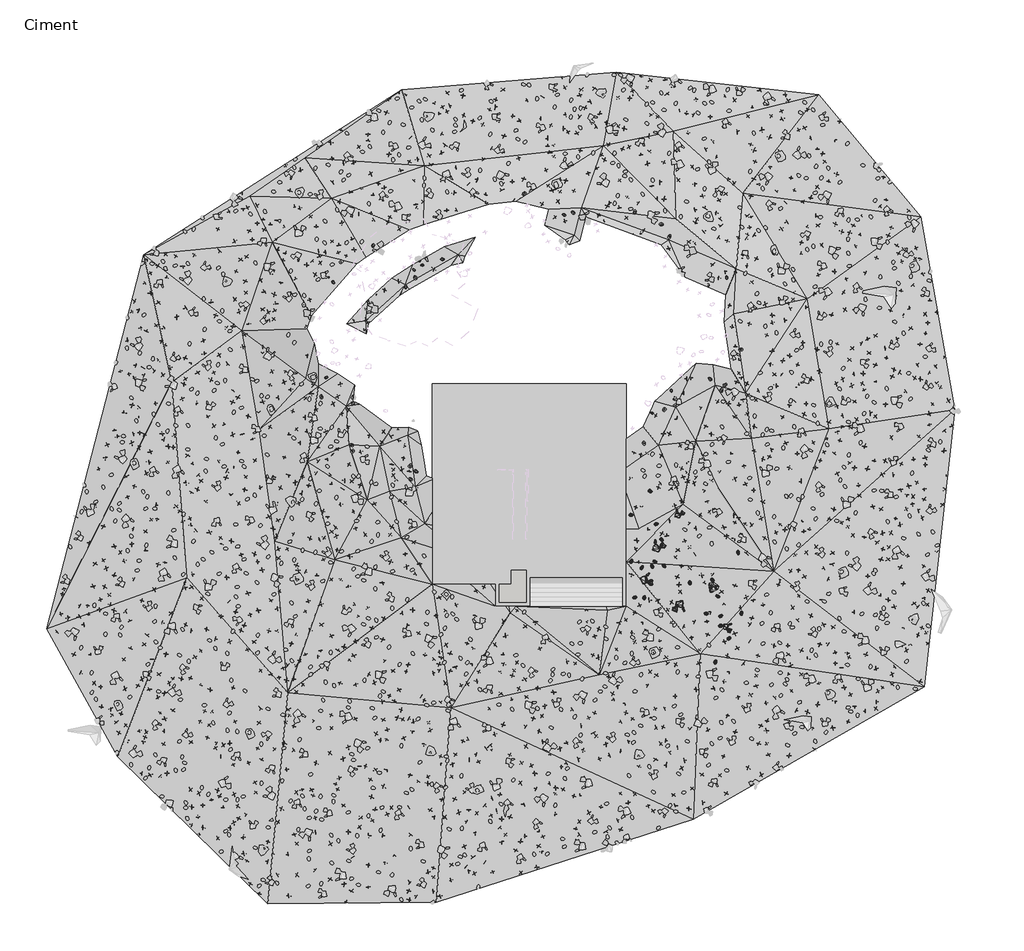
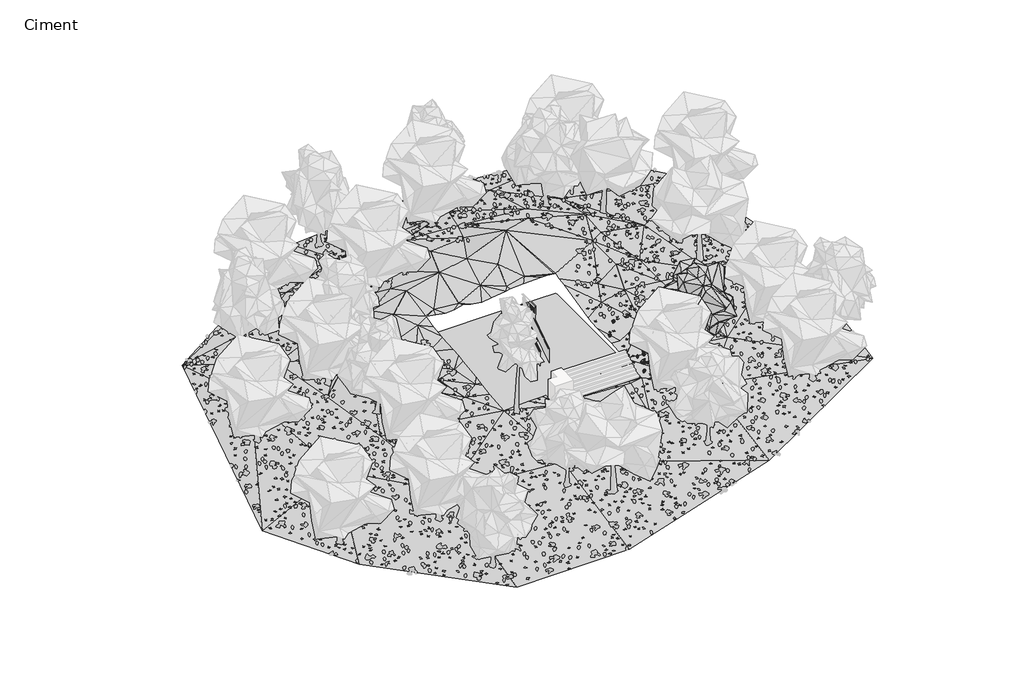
# One storey, part 15 of 30: 71 geographic elements, 2 proxies.
"""IFC4 building model written with IfcOpenShell, lengths in millimetres."""

from ifc_helpers import new_model, si_unit, origin, place, context, project, spatial, triangles, transform, mapped, element, save
from components import enscape_assetdefinition_bush_025_fern_enscape_5718bf32, enscape_assetdefinition_bush_054_plant_09_version_2_enscape_7b546a12, enscape_assetdefinition_bush_062_plant_09_version_3_enscape_ccf8c8eb, enscape_assetdefinition_deciduous_tree_024_elm_enscape_8f9d8ef3, enscape_assetdefinition_stone_013_group_enscape_516da325, enscape_assetdefinition_stone_013_group_enscape_db9b3e91

model = new_model("IFC4")

# Units and contexts
model_context = context("Model", 3, world=origin())
ifc_project = project(units=[si_unit("LENGTHUNIT", "METRE", prefix="MILLI")], contexts=[model_context])

# Site, building, storey
site = spatial("IfcSite", under=ifc_project)
building = spatial("IfcBuilding", under=site)
storey = spatial("IfcBuildingStorey", under=building, Name="Ciment", Elevation=-1500.0)

# Proxies
placement = place(None, origin())
element("IfcBuildingElementProxy", 1, Name="Building Element Proxy", at=placement, inside=storey, context=model_context, shape_type="Tessellation", body=[
    triangles([(-22926.7284851, 10971.8082001, -3000.0000229), (-29221.8302856, -13270.8027557, -3000.0000229), (-24619.4088867, -21555.1633667, -3000.0000229), (-14877.6151428, -31066.8339478, -3000.0000229), (-3985.2175026, -30990.127002, -3000.0000229), (12660.2074677, -25620.6338196, -3000.0000229), (27618.0770142, -17029.4477509, -3000.0000229), (29612.4599304, 919.9969694, -3000.0000229), (27387.9561768, 13423.2422882, -3000.0000229), (20791.1518616, 21324.0658447, -3000.0000229), (7674.2507584, 22781.5001404, -3000.0000229), (-6209.7215469, 21630.8936279, -3000.0000229), (8311.6013901, 2607.3330025, 501.9007599), (8311.6013901, 1968.9519104, 323.8526161), (8311.6013901, 1185.5798138, 219.1070656), (8311.6013901, -2826.1783653, -750.0000057), (8311.6013901, -3383.6088753, -778.2056969), (8311.6013901, -4458.2078178, -840.0412394), (8311.6013901, -6781.7052383, -945.2772577), (8311.6013901, -8930.4676849, -1162.2996214), (8311.6013901, -11802.6667877, -1439.8487411), (7190.0756607, -11802.6667877, -1379.2415394), (6991.1511749, -11802.6667877, -1366.267622), (1179.8526924, -11802.6667877, -1256.9722584), (747.9406837, -11802.6667877, -1251.0842457), (525.2202667, -11802.6667877, -1261.5950867), (-148.3987453, -11802.6667877, -1273.4494503), (-148.3987453, -10856.7338287, -1176.344767), (-148.3987453, -10392.666806, -1118.9257427), (-478.8706249, -10392.666806, -1134.5216658), (-1780.0026878, -10392.666806, -1157.41896), (-4231.0600548, -10392.666806, -1236.7226223), (-4231.0600548, -8032.5236572, -1000.0000076), (-4231.0600548, -6851.0730972, -788.4133587), (-4231.0600548, -6579.918718, -750.0000057), (-4231.0600548, -5736.5725204, -598.7474648), (-4231.0600548, -3602.5452209, -319.3319618), (-4231.0600548, -2932.5308853, -181.1740794), (-4231.0600548, -1855.1111847, -139.9981498), (-4231.0600548, -99.9252688, -19.997528), (-4231.0600548, 23.5891511, 25.3814767), (-4231.0600548, 1405.5185692, 166.4842784), (-4231.0600548, 2557.9522957, 500.0000038), (-4231.0600548, 2607.3330025, 509.9173854), (-4145.1007668, 2607.3330025, 500.0000038), (-3254.6623856, 2607.3330025, 351.9630369), (-2367.4774395, 2607.3330025, 151.6777512), (-1502.3277763, 2607.3330025, 234.4110734), (-685.2160967, 2607.3330025, 455.7351912), (131.8956284, 2607.3330025, 234.4110734), (1160.4778576, 2607.3330025, 67.8558373), (2070.8321743, 2607.3330025, 184.1801278), (3495.5683205, 2607.3330025, 377.1811561), (3913.5343781, 2607.3330025, 500.0000038), (5162.0029404, 2607.3330025, 563.3848703), (6926.7330139, 2607.3330025, 600.0000046), (7486.2500244, 2607.3330025, 622.3480591), (8194.7887527, 2607.3330025, 532.0246479), (-886.1451839, 2902.0292587, 500.0000038), (-3105.3342911, 3204.6459618, 500.0000038), (1988.7134949, 4263.804277, 500.0000038), (3854.849588, 3053.3374649, 500.0000038), (-5475.8320404, 1842.8706528, 500.0000038), (-5828.8843277, -729.3712503, -500.0000038), (-5324.5232529, -4058.154911, -500.0000038), (-6736.7347275, 3608.1347054, 1000.0000076), (-4114.0567314, 6079.5044952, 1000.0000076), (-381.7840364, 7037.79077, 1000.0000076), (2593.9469009, 7542.1518448, 1000.0000076), (4409.6471191, 5575.1434204, 1000.0000076), (5771.4221375, 3456.8264992, 600.0000046), (-7644.5845459, -1435.476915, -750.0000057), (-7039.3511398, -4360.7716141, -750.0000057), (-4719.2901375, -6479.0882446, -750.0000057), (10411.5447235, -1385.0407494, -750.0000057), (11521.1397858, 1086.3289679, -750.0000057), (-8451.5626144, -4915.5691452, -1000.0000076), (-6232.3736526, -7386.9386444, -1000.0000076), (9150.6420364, -6781.7052383, -1000.0000076), (12025.5008606, -5218.1855576, -1000.0000076), (-9662.0294266, -1334.6045837, -500.0000038), (-9813.3382141, 1136.7650608, -500.0000038), (12832.4783478, -1132.8601393, -500.0000038), (14093.3816162, 2498.5402245, -500.0000038), (-8451.5626144, 4566.4209801, 0.0), (13740.3287476, 5827.3239578, 0.0), (-7745.4568771, 5625.5792953, 500.0000038), (-4769.7260124, 7542.1518448, 500.0000038), (526.0660727, 10013.521344, 1000.0000076), (7486.2500244, 9559.5967255, 1000.0000076), (-11629.037851, 2397.6678932, -500.0000038), (-8552.4349457, 6684.7379013, -500.0000038), (-5980.1931152, 9004.7991943, -500.0000038), (-2550.5370506, 10971.8082001, -500.0000038), (4964.4440689, 12232.7103058, -500.0000038), (11067.2140045, 11930.0938934, -500.0000038), (15303.8484283, 7138.6631012, -500.0000038), (16060.3894592, 1994.1790043, -500.0000038), (828.6827757, -12228.8058929, -1300.0000099), (7082.7612808, -12077.4976868, -1400.0000107), (-10569.879245, -8799.1495377, -1500.0000114), (-12335.1435883, -2444.1990646, -1000.0000076), (-12436.0153381, 2952.4651337, -1000.0000076), (14244.6898224, -4108.5910767, -1000.0000076), (16413.4423279, -931.1156948, -1000.0000076), (-11629.037851, 6180.3768265, 0.0), (-8148.9456207, 10114.3942566, 0.0), (-4820.162178, 12232.7103058, 0.0), (173.0132403, 13796.2299866, 0.0), (5418.3692688, 13997.974649, -500.0000038), (15455.1566345, 10063.9578003, -500.0000038), (11521.1397858, 13291.8689117, -500.0000038), (-14453.4608002, -7588.6833069, -2000.0000153), (-15462.1829498, -376.318418, -2000.0000153), (-16571.7768494, 6029.0680389, -2000.0000153), (-14604.7690063, 11778.7856873, -2000.0000153), (-10771.6239075, 14603.2086365, -2000.0000153), (-4769.7260124, 16721.5246857, -2000.0000153), (6830.5807434, 18032.8644104, -2000.0000153), (11369.8315796, 18940.7136475, -2000.0000153), (15858.6447968, 14956.2603424, -2000.0000153), (20044.843927, 8096.9487946, -2000.0000153), (21457.0554016, -325.8823251, -2000.0000153), (17876.0902588, -9555.6917313, -2000.0000153), (13135.0947601, -14901.9194733, -2000.0000153), (6578.400206, -16263.6944916, -2000.0000153), (-3054.8981255, -18382.0117035, -2000.0000153), (-13596.0468567, -17423.7260101, -2000.0000153), (-20152.7419922, -9959.1804749, -2000.0000153), (-21111.0276855, 2700.2845963, -2000.0000153), (-16067.4157745, 14754.5168427, -3000.0000229), (-12486.4517944, 17225.8857605, -3000.0000229)], [[129, 3, 128], [129, 130, 2], [129, 2, 3], [3, 4, 128], [128, 101, 113], [78, 101, 32], [77, 101, 78], [101, 102, 113], [32, 101, 128], [128, 113, 129], [128, 4, 5], [114, 129, 113], [102, 81, 82], [81, 102, 77], [91, 102, 82], [102, 91, 114], [81, 72, 82], [102, 114, 113], [77, 73, 72], [73, 77, 78], [82, 72, 63], [65, 64, 72], [65, 72, 73], [77, 72, 81], [102, 101, 77], [64, 63, 72], [73, 78, 74], [130, 129, 114], [33, 74, 78], [33, 34, 74], [74, 34, 35], [127, 32, 128], [127, 27, 32], [28, 30, 31], [127, 5, 6], [32, 27, 31], [32, 33, 78], [64, 40, 41], [65, 73, 74], [41, 63, 64], [65, 74, 36], [38, 64, 65], [37, 38, 65], [40, 64, 39], [38, 39, 64], [36, 37, 65], [74, 35, 36], [128, 5, 127], [42, 63, 41], [114, 115, 130], [114, 103, 115], [115, 106, 116], [106, 115, 103], [103, 91, 106], [130, 115, 1], [82, 85, 91], [82, 66, 85], [85, 92, 106], [87, 85, 66], [92, 87, 93], [85, 106, 91], [91, 103, 114], [92, 85, 87], [1, 116, 131], [1, 115, 116], [131, 132, 1], [117, 132, 131], [131, 116, 117], [1, 132, 12], [107, 117, 116], [107, 92, 93], [132, 118, 12], [117, 118, 132], [117, 107, 108], [116, 106, 107], [92, 107, 106], [67, 87, 66], [130, 1, 2], [63, 43, 44], [63, 42, 43], [60, 44, 45], [44, 67, 66], [47, 48, 60], [60, 46, 47], [46, 60, 45], [59, 48, 49], [108, 93, 94], [87, 88, 93], [118, 117, 108], [108, 109, 118], [94, 93, 88], [108, 107, 93], [60, 59, 68], [59, 60, 48], [68, 94, 88], [68, 67, 60], [109, 108, 94], [68, 88, 67], [68, 59, 61], [87, 67, 88], [44, 60, 67], [12, 118, 119], [50, 59, 49], [63, 44, 66], [63, 66, 82], [68, 89, 94], [99, 24, 25], [24, 99, 126], [26, 99, 25], [99, 26, 27], [27, 127, 99], [100, 23, 24], [22, 100, 21], [22, 23, 100], [100, 24, 126], [126, 99, 127], [28, 29, 30], [79, 18, 19], [16, 17, 75], [19, 20, 79], [18, 80, 17], [21, 100, 126], [27, 28, 31], [125, 124, 20], [125, 126, 6], [80, 75, 17], [79, 20, 80], [126, 125, 21], [18, 79, 80], [125, 7, 124], [7, 125, 6], [105, 104, 124], [104, 80, 124], [124, 7, 8], [80, 20, 124], [80, 104, 83], [75, 76, 15], [76, 75, 83], [14, 15, 76], [14, 76, 13], [15, 16, 75], [84, 83, 105], [83, 75, 80], [122, 98, 123], [123, 98, 105], [8, 123, 124], [122, 123, 8], [105, 124, 123], [76, 83, 84], [104, 105, 83], [105, 98, 84], [21, 125, 20], [127, 6, 126], [51, 61, 50], [52, 61, 51], [53, 61, 52], [54, 55, 62], [53, 62, 61], [71, 62, 55], [55, 56, 71], [54, 62, 53], [70, 62, 71], [69, 89, 68], [69, 61, 70], [95, 109, 89], [109, 94, 89], [89, 69, 95], [68, 61, 69], [69, 90, 95], [90, 69, 70], [110, 119, 109], [110, 95, 90], [110, 112, 119], [95, 110, 109], [61, 62, 70], [119, 11, 12], [71, 90, 70], [50, 61, 59], [57, 58, 71], [90, 58, 13], [71, 58, 90], [84, 98, 86], [86, 13, 76], [97, 122, 111], [86, 98, 97], [122, 97, 98], [13, 86, 90], [111, 86, 97], [119, 112, 120], [90, 86, 96], [11, 120, 10], [11, 119, 120], [96, 112, 110], [96, 110, 90], [112, 111, 121], [111, 112, 96], [121, 9, 10], [121, 111, 122], [10, 120, 121], [122, 9, 121], [121, 120, 112], [86, 111, 96], [8, 9, 122], [71, 56, 57], [76, 84, 86], [119, 118, 109]], closed=False),
])
element("IfcBuildingElementProxy", 2, Name="Building Element Proxy", at=placement, inside=storey, context=model_context, shape_type="Tessellation", body=[
    triangles([(-4231.0600548, 2607.3330025, -1500.0000114), (3518.939859, 2607.3330025, -1500.0000114), (-4231.0600548, -10392.666806, -1500.0000114), (-148.3987453, -10392.666806, -1500.0000114), (-148.3987453, -11802.6667877, -1500.0000114), (8311.6013901, -11802.6667877, -1500.0000114), (8311.6013901, 2357.3331459, -1500.0000114), (8311.6013901, 2607.3330025, -1500.0000114)], [[3, 5, 4], [1, 4, 2], [4, 1, 3], [5, 6, 4], [8, 2, 7], [6, 7, 2], [6, 2, 4]], closed=False),
])

# Geographic elements
enscape_assetdefinition_bush_025_fern_enscape_shape = enscape_assetdefinition_bush_025_fern_enscape_5718bf32(model_context)
element("IfcGeographicElement", 3, ObjectType="Enscape AssetDefinition - Bush 025 Fern : Enscape AssetDefinition - Bush 025 Fern", at=placement, inside=storey, context=model_context, shape_type="MappedRepresentation", body=[
    mapped(enscape_assetdefinition_bush_025_fern_enscape_shape, transform((14454.2636871, -12442.3961639, -1928.6456108), x_axis=(0.795296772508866, 0.6062202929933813, 0.0), y_axis=(-0.6062202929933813, 0.795296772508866, 0.0), z_axis=(0.0, 0.0, 1.0))),
])
element("IfcGeographicElement", 4, ObjectType="Enscape AssetDefinition - Bush 025 Fern : Enscape AssetDefinition - Bush 025 Fern", at=placement, inside=storey, context=model_context, shape_type="MappedRepresentation", body=[
    mapped(enscape_assetdefinition_bush_025_fern_enscape_shape, transform((15793.1575775, -12261.0492706, -2019.3138123), x_axis=(0.05770504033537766, 0.9983336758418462, 0.0), y_axis=(-0.9983336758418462, 0.05770504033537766, 0.0), z_axis=(0.0, 0.0, 1.0))),
])
element("IfcGeographicElement", 5, ObjectType="Enscape AssetDefinition - Bush 025 Fern : Enscape AssetDefinition - Bush 025 Fern", at=placement, inside=storey, context=model_context, shape_type="MappedRepresentation", body=[
    mapped(enscape_assetdefinition_bush_025_fern_enscape_shape, transform((13903.1925201, -10108.71315, -1711.7013931), x_axis=(-0.7473518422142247, 0.6644284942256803, 0.0), y_axis=(-0.6644284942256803, -0.7473518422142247, 0.0), z_axis=(0.0, 0.0, 1.0))),
])
element("IfcGeographicElement", 6, ObjectType="Enscape AssetDefinition - Bush 025 Fern : Enscape AssetDefinition - Bush 025 Fern", at=placement, inside=storey, context=model_context, shape_type="MappedRepresentation", body=[
    mapped(enscape_assetdefinition_bush_025_fern_enscape_shape, transform((9495.8400726, -11253.9615631, -1450.8215189), x_axis=(-0.09907293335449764, 0.9950801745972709, 0.0), y_axis=(-0.9950801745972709, -0.09907293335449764, 0.0), z_axis=(0.0, 0.0, 1.0))),
])
element("IfcGeographicElement", 7, ObjectType="Enscape AssetDefinition - Bush 025 Fern : Enscape AssetDefinition - Bush 025 Fern", at=placement, inside=storey, context=model_context, shape_type="MappedRepresentation", body=[
    mapped(enscape_assetdefinition_bush_025_fern_enscape_shape, transform((13520.9980011, -12294.7254181, -1840.5435085), x_axis=(0.998221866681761, -0.059607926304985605, 0.0), y_axis=(0.059607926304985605, 0.998221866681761, 0.0), z_axis=(0.0, 0.0, 1.0))),
])
element("IfcGeographicElement", 8, ObjectType="Enscape AssetDefinition - Bush 025 Fern : Enscape AssetDefinition - Bush 025 Fern", at=placement, inside=storey, context=model_context, shape_type="MappedRepresentation", body=[
    mapped(enscape_assetdefinition_bush_025_fern_enscape_shape, transform((14987.9970551, -13894.7734833, -2058.6309433), x_axis=(0.7067002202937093, 0.7075131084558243, 0.0), y_axis=(-0.7075131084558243, 0.7067002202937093, 0.0), z_axis=(0.0, 0.0, 1.0))),
])
element("IfcGeographicElement", 9, ObjectType="Enscape AssetDefinition - Bush 025 Fern : Enscape AssetDefinition - Bush 025 Fern", at=placement, inside=storey, context=model_context, shape_type="MappedRepresentation", body=[
    mapped(enscape_assetdefinition_bush_025_fern_enscape_shape, transform((14428.0519485, -13078.4511566, -1973.1707573), x_axis=(-0.9654509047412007, -0.2605850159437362, 0.0), y_axis=(0.2605850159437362, -0.9654509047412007, 0.0), z_axis=(0.0, 0.0, 1.0))),
])
element("IfcGeographicElement", 10, ObjectType="Enscape AssetDefinition - Bush 025 Fern : Enscape AssetDefinition - Bush 025 Fern", at=placement, inside=storey, context=model_context, shape_type="MappedRepresentation", body=[
    mapped(enscape_assetdefinition_bush_025_fern_enscape_shape, transform((10180.9253693, -8911.6191864, -1308.6351156), x_axis=(-0.9398933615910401, 0.34146810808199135, 0.0), y_axis=(-0.34146810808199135, -0.9398933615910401, 0.0), z_axis=(0.0, 0.0, 1.0))),
])
element("IfcGeographicElement", 11, ObjectType="Enscape AssetDefinition - Bush 025 Fern : Enscape AssetDefinition - Bush 025 Fern", at=placement, inside=storey, context=model_context, shape_type="MappedRepresentation", body=[
    mapped(enscape_assetdefinition_bush_025_fern_enscape_shape, transform((9327.0816803, -9316.3204193, -1274.6934891), x_axis=(-0.23779308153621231, -0.9713158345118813, 0.0), y_axis=(0.9713158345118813, -0.23779308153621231, 0.0), z_axis=(0.0, 0.0, 1.0))),
])
element("IfcGeographicElement", 12, ObjectType="Enscape AssetDefinition - Bush 025 Fern : Enscape AssetDefinition - Bush 025 Fern", at=placement, inside=storey, context=model_context, shape_type="MappedRepresentation", body=[
    mapped(enscape_assetdefinition_bush_025_fern_enscape_shape, transform((12449.2588043, -10287.8742218, -1604.4893265), x_axis=(-0.3943330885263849, 0.9189675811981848, 0.0), y_axis=(-0.9189675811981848, -0.3943330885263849, 0.0), z_axis=(0.0, 0.0, 1.0))),
])
element("IfcGeographicElement", 13, ObjectType="Enscape AssetDefinition - Bush 025 Fern : Enscape AssetDefinition - Bush 025 Fern", at=placement, inside=storey, context=model_context, shape_type="MappedRepresentation", body=[
    mapped(enscape_assetdefinition_bush_025_fern_enscape_shape, transform((8654.706955, -8895.2484131, -1185.2433681), x_axis=(0.4189918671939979, 0.90798998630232, 0.0), y_axis=(-0.90798998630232, 0.4189918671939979, 0.0), z_axis=(0.0, 0.0, 1.0))),
])
element("IfcGeographicElement", 14, ObjectType="Enscape AssetDefinition - Bush 025 Fern : Enscape AssetDefinition - Bush 025 Fern", at=placement, inside=storey, context=model_context, shape_type="MappedRepresentation", body=[
    mapped(enscape_assetdefinition_bush_025_fern_enscape_shape, transform((10000.1544952, -9210.3996277, -1322.6377964), x_axis=(-0.5384157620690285, 0.8426793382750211, 0.0), y_axis=(-0.8426793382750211, -0.5384157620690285, 0.0), z_axis=(0.0, 0.0, 1.0))),
])
element("IfcGeographicElement", 15, ObjectType="Enscape AssetDefinition - Bush 025 Fern : Enscape AssetDefinition - Bush 025 Fern", at=placement, inside=storey, context=model_context, shape_type="MappedRepresentation", body=[
    mapped(enscape_assetdefinition_bush_025_fern_enscape_shape, transform((8867.3686981, -11239.2215729, -1415.435195), x_axis=(-0.9352339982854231, -0.354030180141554, 0.0), y_axis=(0.354030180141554, -0.9352339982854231, 0.0), z_axis=(0.0, 0.0, 1.0))),
])
element("IfcGeographicElement", 16, ObjectType="Enscape AssetDefinition - Bush 025 Fern : Enscape AssetDefinition - Bush 025 Fern", at=placement, inside=storey, context=model_context, shape_type="MappedRepresentation", body=[
    mapped(enscape_assetdefinition_bush_025_fern_enscape_shape, transform((10252.6836395, -6487.1273041, -1029.2271376), x_axis=(-0.9276692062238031, -0.37340305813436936, 0.0), y_axis=(0.37340305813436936, -0.9276692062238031, 0.0), z_axis=(0.0, 0.0, 1.0))),
])
element("IfcGeographicElement", 17, ObjectType="Enscape AssetDefinition - Bush 025 Fern : Enscape AssetDefinition - Bush 025 Fern", at=placement, inside=storey, context=model_context, shape_type="MappedRepresentation", body=[
    mapped(enscape_assetdefinition_bush_025_fern_enscape_shape, transform((10776.7353058, -9203.2585144, -1386.4029646), x_axis=(0.7588563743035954, -0.6512580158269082, 0.0), y_axis=(0.6512580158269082, 0.7588563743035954, 0.0), z_axis=(0.0, 0.0, 1.0))),
])
element("IfcGeographicElement", 18, ObjectType="Enscape AssetDefinition - Bush 025 Fern : Enscape AssetDefinition - Bush 025 Fern", at=placement, inside=storey, context=model_context, shape_type="MappedRepresentation", body=[
    mapped(enscape_assetdefinition_bush_025_fern_enscape_shape, transform((14256.6356659, -11167.0398712, -1818.656683), x_axis=(0.9704094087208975, -0.2414654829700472, 0.0), y_axis=(0.2414654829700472, 0.9704094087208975, 0.0), z_axis=(0.0, 0.0, 1.0))),
])
element("IfcGeographicElement", 19, ObjectType="Enscape AssetDefinition - Bush 025 Fern : Enscape AssetDefinition - Bush 025 Fern", at=placement, inside=storey, context=model_context, shape_type="MappedRepresentation", body=[
    mapped(enscape_assetdefinition_bush_025_fern_enscape_shape, transform((9880.440712, -4360.3572845, -883.5076094), x_axis=(0.927915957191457, -0.37278945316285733, 0.0), y_axis=(0.37278945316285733, 0.927915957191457, 0.0), z_axis=(0.0, 0.0, 1.0))),
])
element("IfcGeographicElement", 20, ObjectType="Enscape AssetDefinition - Bush 025 Fern : Enscape AssetDefinition - Bush 025 Fern", at=placement, inside=storey, context=model_context, shape_type="MappedRepresentation", body=[
    mapped(enscape_assetdefinition_bush_025_fern_enscape_shape, transform((15564.7754669, -8341.3066864, -1666.4814949), x_axis=(0.3182640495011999, -0.9480021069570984, 0.0), y_axis=(0.9480021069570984, 0.3182640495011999, 0.0), z_axis=(0.0, 0.0, 1.0))),
])
element("IfcGeographicElement", 21, ObjectType="Enscape AssetDefinition - Bush 025 Fern : Enscape AssetDefinition - Bush 025 Fern", at=placement, inside=storey, context=model_context, shape_type="MappedRepresentation", body=[
    mapped(enscape_assetdefinition_bush_025_fern_enscape_shape, transform((8648.5691071, -5899.5895386, -927.3016453), x_axis=(0.9959968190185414, 0.08938868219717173, 0.0), y_axis=(-0.08938868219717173, 0.9959968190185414, 0.0), z_axis=(0.0, 0.0, 1.0))),
])
element("IfcGeographicElement", 22, ObjectType="Enscape AssetDefinition - Bush 025 Fern : Enscape AssetDefinition - Bush 025 Fern", at=placement, inside=storey, context=model_context, shape_type="MappedRepresentation", body=[
    mapped(enscape_assetdefinition_bush_025_fern_enscape_shape, transform((10619.2569733, -7497.2949028, -1169.1359282), x_axis=(0.9042128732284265, -0.4270820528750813, 0.0), y_axis=(0.4270820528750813, 0.9042128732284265, 0.0), z_axis=(0.0, 0.0, 1.0))),
])
element("IfcGeographicElement", 23, ObjectType="Enscape AssetDefinition - Bush 025 Fern : Enscape AssetDefinition - Bush 025 Fern", at=placement, inside=storey, context=model_context, shape_type="MappedRepresentation", body=[
    mapped(enscape_assetdefinition_bush_025_fern_enscape_shape, transform((14108.1895828, -15413.7058258, -2102.4980545), x_axis=(0.26750762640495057, 0.9635557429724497, 0.0), y_axis=(-0.9635557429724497, 0.26750762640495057, 0.0), z_axis=(0.0, 0.0, 1.0))),
])
enscape_assetdefinition_bush_054_plant_09_version_2_enscape_shape = enscape_assetdefinition_bush_054_plant_09_version_2_enscape_7b546a12(model_context)
element("IfcGeographicElement", 24, ObjectType="Enscape AssetDefinition - Bush 054 Plant 09, Version 2 : Enscape AssetDefinition - Bush 054 Plant 09, Version 2", at=placement, inside=storey, context=model_context, shape_type="MappedRepresentation", body=[
    mapped(enscape_assetdefinition_bush_054_plant_09_version_2_enscape_shape, transform((9718.1873322, -6854.8412323, -1036.6132259), x_axis=(0.10800796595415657, -0.994150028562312, 0.0), y_axis=(0.994150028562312, 0.10800796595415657, 0.0), z_axis=(0.0, 0.0, 1.0))),
])
element("IfcGeographicElement", 25, ObjectType="Enscape AssetDefinition - Bush 054 Plant 09, Version 2 : Enscape AssetDefinition - Bush 054 Plant 09, Version 2", at=placement, inside=storey, context=model_context, shape_type="MappedRepresentation", body=[
    mapped(enscape_assetdefinition_bush_054_plant_09_version_2_enscape_shape, transform((13539.97612, -12784.9216461, -1878.1024218), x_axis=(0.21066558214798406, -0.9775581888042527, 0.0), y_axis=(0.9775581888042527, 0.21066558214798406, 0.0), z_axis=(0.0, 0.0, 1.0))),
])
element("IfcGeographicElement", 26, ObjectType="Enscape AssetDefinition - Bush 054 Plant 09, Version 2 : Enscape AssetDefinition - Bush 054 Plant 09, Version 2", at=placement, inside=storey, context=model_context, shape_type="MappedRepresentation", body=[
    mapped(enscape_assetdefinition_bush_054_plant_09_version_2_enscape_shape, transform((12740.6826019, -12834.4707489, -1815.5699968), x_axis=(0.9569949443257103, -0.29010459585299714, 0.0), y_axis=(0.29010459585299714, 0.9569949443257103, 0.0), z_axis=(0.0, 0.0, 1.0))),
])
element("IfcGeographicElement", 27, ObjectType="Enscape AssetDefinition - Bush 054 Plant 09, Version 2 : Enscape AssetDefinition - Bush 054 Plant 09, Version 2", at=placement, inside=storey, context=model_context, shape_type="MappedRepresentation", body=[
    mapped(enscape_assetdefinition_bush_054_plant_09_version_2_enscape_shape, transform((12772.9511261, -8460.4072571, -1459.1423273), x_axis=(0.7951299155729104, 0.6064391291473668, 0.0), y_axis=(-0.6064391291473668, 0.7951299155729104, 0.0), z_axis=(0.0, 0.0, 1.0))),
])
element("IfcGeographicElement", 28, ObjectType="Enscape AssetDefinition - Bush 054 Plant 09, Version 2 : Enscape AssetDefinition - Bush 054 Plant 09, Version 2", at=placement, inside=storey, context=model_context, shape_type="MappedRepresentation", body=[
    mapped(enscape_assetdefinition_bush_054_plant_09_version_2_enscape_shape, transform((10410.7685089, -4133.310318, -889.0340328), x_axis=(0.27180957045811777, 0.9623510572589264, 0.0), y_axis=(-0.9623510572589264, 0.27180957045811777, 0.0), z_axis=(0.0, 0.0, 1.0))),
])
element("IfcGeographicElement", 29, ObjectType="Enscape AssetDefinition - Bush 054 Plant 09, Version 2 : Enscape AssetDefinition - Bush 054 Plant 09, Version 2", at=placement, inside=storey, context=model_context, shape_type="MappedRepresentation", body=[
    mapped(enscape_assetdefinition_bush_054_plant_09_version_2_enscape_shape, transform((12027.4677277, -13125.8563995, -1777.9176235), x_axis=(-0.3302677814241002, -0.9438872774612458, 0.0), y_axis=(0.9438872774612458, -0.3302677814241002, 0.0), z_axis=(0.0, 0.0, 1.0))),
])
element("IfcGeographicElement", 30, ObjectType="Enscape AssetDefinition - Bush 054 Plant 09, Version 2 : Enscape AssetDefinition - Bush 054 Plant 09, Version 2", at=placement, inside=storey, context=model_context, shape_type="MappedRepresentation", body=[
    mapped(enscape_assetdefinition_bush_054_plant_09_version_2_enscape_shape, transform((9303.030014, -5405.4570198, -925.5757332), x_axis=(-0.7116567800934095, -0.7025273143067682, 0.0), y_axis=(0.7025273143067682, -0.7116567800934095, 0.0), z_axis=(0.0, 0.0, 1.0))),
])
element("IfcGeographicElement", 31, ObjectType="Enscape AssetDefinition - Bush 054 Plant 09, Version 2 : Enscape AssetDefinition - Bush 054 Plant 09, Version 2", at=placement, inside=storey, context=model_context, shape_type="MappedRepresentation", body=[
    mapped(enscape_assetdefinition_bush_054_plant_09_version_2_enscape_shape, transform((11456.284523, -5307.454586, -987.3232841), x_axis=(0.9510488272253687, 0.3090406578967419, 0.0), y_axis=(-0.3090406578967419, 0.9510488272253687, 0.0), z_axis=(0.0, 0.0, 1.0))),
])
element("IfcGeographicElement", 32, ObjectType="Enscape AssetDefinition - Bush 054 Plant 09, Version 2 : Enscape AssetDefinition - Bush 054 Plant 09, Version 2", at=placement, inside=storey, context=model_context, shape_type="MappedRepresentation", body=[
    mapped(enscape_assetdefinition_bush_054_plant_09_version_2_enscape_shape, transform((8934.2823029, -5407.6004028, -914.1588211), x_axis=(0.9585560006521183, -0.28490418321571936, 0.0), y_axis=(0.28490418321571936, 0.9585560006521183, 0.0), z_axis=(0.0, 0.0, 1.0))),
])
element("IfcGeographicElement", 33, ObjectType="Enscape AssetDefinition - Bush 054 Plant 09, Version 2 : Enscape AssetDefinition - Bush 054 Plant 09, Version 2", at=placement, inside=storey, context=model_context, shape_type="MappedRepresentation", body=[
    mapped(enscape_assetdefinition_bush_054_plant_09_version_2_enscape_shape, transform((8928.6603928, -8086.3609314, -1113.5348082), x_axis=(-0.8785893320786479, -0.4775780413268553, 0.0), y_axis=(0.4775780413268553, -0.8785893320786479, 0.0), z_axis=(0.0, 0.0, 1.0))),
])
element("IfcGeographicElement", 34, ObjectType="Enscape AssetDefinition - Bush 054 Plant 09, Version 2 : Enscape AssetDefinition - Bush 054 Plant 09, Version 2", at=placement, inside=storey, context=model_context, shape_type="MappedRepresentation", body=[
    mapped(enscape_assetdefinition_bush_054_plant_09_version_2_enscape_shape, transform((13917.432785, -9761.8045807, -1687.4125004), x_axis=(-0.5794396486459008, -0.8150151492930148, 0.0), y_axis=(0.8150151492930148, -0.5794396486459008, 0.0), z_axis=(0.0, 0.0, 1.0))),
])
element("IfcGeographicElement", 35, ObjectType="Enscape AssetDefinition - Bush 054 Plant 09, Version 2 : Enscape AssetDefinition - Bush 054 Plant 09, Version 2", at=placement, inside=storey, context=model_context, shape_type="MappedRepresentation", body=[
    mapped(enscape_assetdefinition_bush_054_plant_09_version_2_enscape_shape, transform((9178.8806915, -11748.4292984, -1481.4753532), x_axis=(0.4131958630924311, -0.9106421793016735, 0.0), y_axis=(0.9106421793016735, 0.4131958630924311, 0.0), z_axis=(0.0, 0.0, 1.0))),
])
element("IfcGeographicElement", 36, ObjectType="Enscape AssetDefinition - Bush 054 Plant 09, Version 2 : Enscape AssetDefinition - Bush 054 Plant 09, Version 2", at=placement, inside=storey, context=model_context, shape_type="MappedRepresentation", body=[
    mapped(enscape_assetdefinition_bush_054_plant_09_version_2_enscape_shape, transform((10945.4936981, -7251.7800331, -1164.8129225), x_axis=(0.16561109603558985, -0.9861911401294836, 0.0), y_axis=(0.9861911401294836, 0.16561109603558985, 0.0), z_axis=(0.0, 0.0, 1.0))),
])
element("IfcGeographicElement", 37, ObjectType="Enscape AssetDefinition - Bush 054 Plant 09, Version 2 : Enscape AssetDefinition - Bush 054 Plant 09, Version 2", at=placement, inside=storey, context=model_context, shape_type="MappedRepresentation", body=[
    mapped(enscape_assetdefinition_bush_054_plant_09_version_2_enscape_shape, transform((12565.618515, -13851.4738083, -1875.73874), x_axis=(-0.19062685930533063, 0.9816625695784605, 0.0), y_axis=(-0.9816625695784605, -0.19062685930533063, 0.0), z_axis=(0.0, 0.0, 1.0))),
])
element("IfcGeographicElement", 38, ObjectType="Enscape AssetDefinition - Bush 054 Plant 09, Version 2 : Enscape AssetDefinition - Bush 054 Plant 09, Version 2", at=placement, inside=storey, context=model_context, shape_type="MappedRepresentation", body=[
    mapped(enscape_assetdefinition_bush_054_plant_09_version_2_enscape_shape, transform((14662.8818512, -11640.4094696, -1887.0396614), x_axis=(0.7142218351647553, 0.699919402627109, 0.0), y_axis=(-0.699919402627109, 0.7142218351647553, 0.0), z_axis=(0.0, 0.0, 1.0))),
])
element("IfcGeographicElement", 39, ObjectType="Enscape AssetDefinition - Bush 054 Plant 09, Version 2 : Enscape AssetDefinition - Bush 054 Plant 09, Version 2", at=placement, inside=storey, context=model_context, shape_type="MappedRepresentation", body=[
    mapped(enscape_assetdefinition_bush_054_plant_09_version_2_enscape_shape, transform((15747.5719452, -11880.9804916, -1994.49718), x_axis=(-0.9562816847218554, -0.2924471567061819, 0.0), y_axis=(0.2924471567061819, -0.9562816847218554, 0.0), z_axis=(0.0, 0.0, 1.0))),
])
element("IfcGeographicElement", 40, ObjectType="Enscape AssetDefinition - Bush 054 Plant 09, Version 2 : Enscape AssetDefinition - Bush 054 Plant 09, Version 2", at=placement, inside=storey, context=model_context, shape_type="MappedRepresentation", body=[
    mapped(enscape_assetdefinition_bush_054_plant_09_version_2_enscape_shape, transform((11516.5424347, -8636.9380951, -1380.9885979), x_axis=(-0.7716307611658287, 0.6360707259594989, 0.0), y_axis=(-0.6360707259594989, -0.7716307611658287, 0.0), z_axis=(0.0, 0.0, 1.0))),
])
element("IfcGeographicElement", 41, ObjectType="Enscape AssetDefinition - Bush 054 Plant 09, Version 2 : Enscape AssetDefinition - Bush 054 Plant 09, Version 2", at=placement, inside=storey, context=model_context, shape_type="MappedRepresentation", body=[
    mapped(enscape_assetdefinition_bush_054_plant_09_version_2_enscape_shape, transform((13356.4167023, -10300.1842499, -1680.4931164), x_axis=(-0.25902463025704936, -0.9658707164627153, 0.0), y_axis=(0.9658707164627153, -0.25902463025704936, 0.0), z_axis=(0.0, 0.0, 1.0))),
])
element("IfcGeographicElement", 42, ObjectType="Enscape AssetDefinition - Bush 054 Plant 09, Version 2 : Enscape AssetDefinition - Bush 054 Plant 09, Version 2", at=placement, inside=storey, context=model_context, shape_type="MappedRepresentation", body=[
    mapped(enscape_assetdefinition_bush_054_plant_09_version_2_enscape_shape, transform((11911.8175507, -9212.5148773, -1481.0509682), x_axis=(0.11893772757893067, 0.9929017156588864, 0.0), y_axis=(-0.9929017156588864, 0.11893772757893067, 0.0), z_axis=(0.0, 0.0, 1.0))),
])
element("IfcGeographicElement", 43, ObjectType="Enscape AssetDefinition - Bush 054 Plant 09, Version 2 : Enscape AssetDefinition - Bush 054 Plant 09, Version 2", at=placement, inside=storey, context=model_context, shape_type="MappedRepresentation", body=[
    mapped(enscape_assetdefinition_bush_054_plant_09_version_2_enscape_shape, transform((13808.6719513, -12205.3661346, -1857.7988148), x_axis=(0.11549526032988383, 0.9933080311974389, 0.0), y_axis=(-0.9933080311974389, 0.11549526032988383, 0.0), z_axis=(0.0, 0.0, 1.0))),
])
element("IfcGeographicElement", 44, ObjectType="Enscape AssetDefinition - Bush 054 Plant 09, Version 2 : Enscape AssetDefinition - Bush 054 Plant 09, Version 2", at=placement, inside=storey, context=model_context, shape_type="MappedRepresentation", body=[
    mapped(enscape_assetdefinition_bush_054_plant_09_version_2_enscape_shape, transform((11111.7153168, -6283.8096619, -1058.7003231), x_axis=(0.9791261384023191, 0.20325354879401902, 0.0), y_axis=(-0.20325354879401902, 0.9791261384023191, 0.0), z_axis=(0.0, 0.0, 1.0))),
])
element("IfcGeographicElement", 45, ObjectType="Enscape AssetDefinition - Bush 054 Plant 09, Version 2 : Enscape AssetDefinition - Bush 054 Plant 09, Version 2", at=placement, inside=storey, context=model_context, shape_type="MappedRepresentation", body=[
    mapped(enscape_assetdefinition_bush_054_plant_09_version_2_enscape_shape, transform((9123.0106354, -8981.3842773, -1233.1045866), x_axis=(0.9989907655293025, -0.04491603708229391, 0.0), y_axis=(0.04491603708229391, 0.9989907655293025, 0.0), z_axis=(0.0, 0.0, 1.0))),
])
enscape_assetdefinition_bush_062_plant_09_version_3_enscape_shape = enscape_assetdefinition_bush_062_plant_09_version_3_enscape_ccf8c8eb(model_context)
element("IfcGeographicElement", 46, ObjectType="Enscape AssetDefinition - Bush 062 Plant 09, Version 3 : Enscape AssetDefinition - Bush 062 Plant 09, Version 3", at=placement, inside=storey, context=model_context, shape_type="MappedRepresentation", body=[
    mapped(enscape_assetdefinition_bush_062_plant_09_version_3_enscape_shape, transform((15360.7349396, -13573.6188889, -2064.0034676), x_axis=(0.5735546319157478, -0.819167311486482, 0.0), y_axis=(0.819167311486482, 0.5735546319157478, 0.0), z_axis=(0.0, 0.0, 1.0))),
])
element("IfcGeographicElement", 47, ObjectType="Enscape AssetDefinition - Bush 062 Plant 09, Version 3 : Enscape AssetDefinition - Bush 062 Plant 09, Version 3", at=placement, inside=storey, context=model_context, shape_type="MappedRepresentation", body=[
    mapped(enscape_assetdefinition_bush_062_plant_09_version_3_enscape_shape, transform((9817.3971176, -11401.0982513, -1482.416749), x_axis=(0.25047893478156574, -0.9681220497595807, 0.0), y_axis=(0.9681220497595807, 0.25047893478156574, 0.0), z_axis=(0.0, 0.0, 1.0))),
])
element("IfcGeographicElement", 48, ObjectType="Enscape AssetDefinition - Bush 062 Plant 09, Version 3 : Enscape AssetDefinition - Bush 062 Plant 09, Version 3", at=placement, inside=storey, context=model_context, shape_type="MappedRepresentation", body=[
    mapped(enscape_assetdefinition_bush_062_plant_09_version_3_enscape_shape, transform((13198.1267929, -9819.360733, -1632.0893764), x_axis=(-0.3086139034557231, 0.9511873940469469, 0.0), y_axis=(-0.9511873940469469, -0.3086139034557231, 0.0), z_axis=(0.0, 0.0, 1.0))),
])
element("IfcGeographicElement", 49, ObjectType="Enscape AssetDefinition - Bush 062 Plant 09, Version 3 : Enscape AssetDefinition - Bush 062 Plant 09, Version 3", at=placement, inside=storey, context=model_context, shape_type="MappedRepresentation", body=[
    mapped(enscape_assetdefinition_bush_062_plant_09_version_3_enscape_shape, transform((11636.4927292, -9891.6883469, -1508.1187487), x_axis=(0.9620802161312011, -0.27276667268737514, 0.0), y_axis=(0.27276667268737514, 0.9620802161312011, 0.0), z_axis=(0.0, 0.0, 1.0))),
])
element("IfcGeographicElement", 50, ObjectType="Enscape AssetDefinition - Bush 062 Plant 09, Version 3 : Enscape AssetDefinition - Bush 062 Plant 09, Version 3", at=placement, inside=storey, context=model_context, shape_type="MappedRepresentation", body=[
    mapped(enscape_assetdefinition_bush_062_plant_09_version_3_enscape_shape, transform((11584.4402313, -4059.3662262, -920.0900793), x_axis=(0.8050797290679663, -0.5931666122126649, 0.0), y_axis=(0.5931666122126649, 0.8050797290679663, 0.0), z_axis=(0.0, 0.0, 1.0))),
])
element("IfcGeographicElement", 51, ObjectType="Enscape AssetDefinition - Bush 062 Plant 09, Version 3 : Enscape AssetDefinition - Bush 062 Plant 09, Version 3", at=placement, inside=storey, context=model_context, shape_type="MappedRepresentation", body=[
    mapped(enscape_assetdefinition_bush_062_plant_09_version_3_enscape_shape, transform((15366.9366837, -10493.0896759, -1861.0963821), x_axis=(-0.9737482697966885, 0.2276275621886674, 0.0), y_axis=(-0.2276275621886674, -0.9737482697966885, 0.0), z_axis=(0.0, 0.0, 1.0))),
])
element("IfcGeographicElement", 52, ObjectType="Enscape AssetDefinition - Bush 062 Plant 09, Version 3 : Enscape AssetDefinition - Bush 062 Plant 09, Version 3", at=placement, inside=storey, context=model_context, shape_type="MappedRepresentation", body=[
    mapped(enscape_assetdefinition_bush_062_plant_09_version_3_enscape_shape, transform((13601.3278961, -13612.7910614, -1943.9584017), x_axis=(0.9787896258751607, -0.2048679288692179, 0.0), y_axis=(0.2048679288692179, 0.9787896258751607, 0.0), z_axis=(0.0, 0.0, 1.0))),
])
element("IfcGeographicElement", 53, ObjectType="Enscape AssetDefinition - Bush 062 Plant 09, Version 3 : Enscape AssetDefinition - Bush 062 Plant 09, Version 3", at=placement, inside=storey, context=model_context, shape_type="MappedRepresentation", body=[
    mapped(enscape_assetdefinition_bush_062_plant_09_version_3_enscape_shape, transform((11270.986557, -11550.4283905, -1599.634409), x_axis=(-0.35059009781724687, -0.9365290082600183, 0.0), y_axis=(0.9365290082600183, -0.35059009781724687, 0.0), z_axis=(0.0, 0.0, 1.0))),
])
element("IfcGeographicElement", 54, ObjectType="Enscape AssetDefinition - Bush 062 Plant 09, Version 3 : Enscape AssetDefinition - Bush 062 Plant 09, Version 3", at=placement, inside=storey, context=model_context, shape_type="MappedRepresentation", body=[
    mapped(enscape_assetdefinition_bush_062_plant_09_version_3_enscape_shape, transform((8663.0344391, -9759.9544525, -1261.4465952), x_axis=(0.020341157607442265, 0.9997930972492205, 0.0), y_axis=(-0.9997930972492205, 0.020341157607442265, 0.0), z_axis=(0.0, 0.0, 1.0))),
])
element("IfcGeographicElement", 55, ObjectType="Enscape AssetDefinition - Bush 062 Plant 09, Version 3 : Enscape AssetDefinition - Bush 062 Plant 09, Version 3", at=placement, inside=storey, context=model_context, shape_type="MappedRepresentation", body=[
    mapped(enscape_assetdefinition_bush_062_plant_09_version_3_enscape_shape, transform((11223.2532501, -4198.5797882, -920.5503464), x_axis=(-0.8646261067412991, 0.5024158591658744, 0.0), y_axis=(-0.5024158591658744, -0.8646261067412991, 0.0), z_axis=(0.0, 0.0, 1.0))),
])
element("IfcGeographicElement", 56, ObjectType="Enscape AssetDefinition - Bush 062 Plant 09, Version 3 : Enscape AssetDefinition - Bush 062 Plant 09, Version 3", at=placement, inside=storey, context=model_context, shape_type="MappedRepresentation", body=[
    mapped(enscape_assetdefinition_bush_062_plant_09_version_3_enscape_shape, transform((8996.9387054, -7553.1291962, -1065.9607649), x_axis=(-0.22074186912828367, 0.9753322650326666, 0.0), y_axis=(-0.9753322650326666, -0.22074186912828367, 0.0), z_axis=(0.0, 0.0, 1.0))),
])
element("IfcGeographicElement", 57, ObjectType="Enscape AssetDefinition - Bush 062 Plant 09, Version 3 : Enscape AssetDefinition - Bush 062 Plant 09, Version 3", at=placement, inside=storey, context=model_context, shape_type="MappedRepresentation", body=[
    mapped(enscape_assetdefinition_bush_062_plant_09_version_3_enscape_shape, transform((14490.1256561, -10888.5011673, -1817.5376654), x_axis=(-0.7869488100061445, 0.6170182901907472, 0.0), y_axis=(-0.6170182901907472, -0.7869488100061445, 0.0), z_axis=(0.0, 0.0, 1.0))),
])
element("IfcGeographicElement", 58, ObjectType="Enscape AssetDefinition - Bush 062 Plant 09, Version 3 : Enscape AssetDefinition - Bush 062 Plant 09, Version 3", at=placement, inside=storey, context=model_context, shape_type="MappedRepresentation", body=[
    mapped(enscape_assetdefinition_bush_062_plant_09_version_3_enscape_shape, transform((11661.6764069, -8182.6572418, -1336.5267515), x_axis=(-0.8718874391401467, 0.48970633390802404, 0.0), y_axis=(-0.48970633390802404, -0.8718874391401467, 0.0), z_axis=(0.0, 0.0, 1.0))),
])
element("IfcGeographicElement", 59, ObjectType="Enscape AssetDefinition - Bush 062 Plant 09, Version 3 : Enscape AssetDefinition - Bush 062 Plant 09, Version 3", at=placement, inside=storey, context=model_context, shape_type="MappedRepresentation", body=[
    mapped(enscape_assetdefinition_bush_062_plant_09_version_3_enscape_shape, transform((10388.586998, -11443.8381195, -1518.7593699), x_axis=(-0.8713372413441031, -0.49068463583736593, 0.0), y_axis=(0.49068463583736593, -0.8713372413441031, 0.0), z_axis=(0.0, 0.0, 1.0))),
])
element("IfcGeographicElement", 60, ObjectType="Enscape AssetDefinition - Bush 062 Plant 09, Version 3 : Enscape AssetDefinition - Bush 062 Plant 09, Version 3", at=placement, inside=storey, context=model_context, shape_type="MappedRepresentation", body=[
    mapped(enscape_assetdefinition_bush_062_plant_09_version_3_enscape_shape, transform((10630.1364899, -7109.6096039, -1122.207284), x_axis=(-0.9804136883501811, 0.1969492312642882, 0.0), y_axis=(-0.1969492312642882, -0.9804136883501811, 0.0), z_axis=(0.0, 0.0, 1.0))),
])
element("IfcGeographicElement", 61, ObjectType="Enscape AssetDefinition - Bush 062 Plant 09, Version 3 : Enscape AssetDefinition - Bush 062 Plant 09, Version 3", at=placement, inside=storey, context=model_context, shape_type="MappedRepresentation", body=[
    mapped(enscape_assetdefinition_bush_062_plant_09_version_3_enscape_shape, transform((11931.9667816, -5010.1718903, -986.2264395), x_axis=(0.015068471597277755, -0.9998864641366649, 0.0), y_axis=(0.9998864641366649, 0.015068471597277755, 0.0), z_axis=(0.0, 0.0, 1.0))),
])
element("IfcGeographicElement", 62, ObjectType="Enscape AssetDefinition - Bush 062 Plant 09, Version 3 : Enscape AssetDefinition - Bush 062 Plant 09, Version 3", at=placement, inside=storey, context=model_context, shape_type="MappedRepresentation", body=[
    mapped(enscape_assetdefinition_bush_062_plant_09_version_3_enscape_shape, transform((11741.6782379, -10400.0253677, -1554.1455746), x_axis=(0.9798578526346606, 0.19969624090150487, 0.0), y_axis=(-0.19969624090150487, 0.9798578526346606, 0.0), z_axis=(0.0, 0.0, 1.0))),
])
element("IfcGeographicElement", 63, ObjectType="Enscape AssetDefinition - Bush 062 Plant 09, Version 3 : Enscape AssetDefinition - Bush 062 Plant 09, Version 3", at=placement, inside=storey, context=model_context, shape_type="MappedRepresentation", body=[
    mapped(enscape_assetdefinition_bush_062_plant_09_version_3_enscape_shape, transform((15524.2900848, -14534.3799591, -2126.0421276), x_axis=(-0.6956836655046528, 0.7183482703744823, 0.0), y_axis=(-0.7183482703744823, -0.6956836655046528, 0.0), z_axis=(0.0, 0.0, 1.0))),
])
element("IfcGeographicElement", 64, ObjectType="Enscape AssetDefinition - Bush 062 Plant 09, Version 3 : Enscape AssetDefinition - Bush 062 Plant 09, Version 3", at=placement, inside=storey, context=model_context, shape_type="MappedRepresentation", body=[
    mapped(enscape_assetdefinition_bush_062_plant_09_version_3_enscape_shape, transform((14667.3641205, -14108.9801788, -2050.6484509), x_axis=(-0.46875393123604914, 0.8833287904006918, 0.0), y_axis=(-0.8833287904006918, -0.46875393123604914, 0.0), z_axis=(0.0, 0.0, 1.0))),
])
element("IfcGeographicElement", 65, ObjectType="Enscape AssetDefinition - Bush 062 Plant 09, Version 3 : Enscape AssetDefinition - Bush 062 Plant 09, Version 3", at=placement, inside=storey, context=model_context, shape_type="MappedRepresentation", body=[
    mapped(enscape_assetdefinition_bush_062_plant_09_version_3_enscape_shape, transform((12452.0664215, -9329.5269012, -1534.3663692), x_axis=(0.8038320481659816, -0.5948563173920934, 0.0), y_axis=(0.5948563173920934, 0.8038320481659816, 0.0), z_axis=(0.0, 0.0, 1.0))),
])
element("IfcGeographicElement", 66, ObjectType="Enscape AssetDefinition - Bush 062 Plant 09, Version 3 : Enscape AssetDefinition - Bush 062 Plant 09, Version 3", at=placement, inside=storey, context=model_context, shape_type="MappedRepresentation", body=[
    mapped(enscape_assetdefinition_bush_062_plant_09_version_3_enscape_shape, transform((15926.3973236, -15529.1461945, -2213.5214806), x_axis=(-0.5247386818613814, -0.8512633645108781, 0.0), y_axis=(0.8512633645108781, -0.5247386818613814, 0.0), z_axis=(0.0, 0.0, 1.0))),
])
element("IfcGeographicElement", 67, ObjectType="Enscape AssetDefinition - Bush 062 Plant 09, Version 3 : Enscape AssetDefinition - Bush 062 Plant 09, Version 3", at=placement, inside=storey, context=model_context, shape_type="MappedRepresentation", body=[
    mapped(enscape_assetdefinition_bush_062_plant_09_version_3_enscape_shape, transform((11825.8838654, -10878.1375885, -1596.2165594), x_axis=(-0.5393803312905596, -0.8420622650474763, 0.0), y_axis=(0.8420622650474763, -0.5393803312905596, 0.0), z_axis=(0.0, 0.0, 1.0))),
])
enscape_assetdefinition_deciduous_tree_024_elm_enscape_shape = enscape_assetdefinition_deciduous_tree_024_elm_enscape_8f9d8ef3(model_context)
element("IfcGeographicElement", 68, ObjectType="Enscape AssetDefinition - Deciduous Tree 024 Elm : Enscape AssetDefinition - Deciduous Tree 024 Elm", at=placement, inside=storey, context=model_context, shape_type="MappedRepresentation", body=[
    mapped(enscape_assetdefinition_deciduous_tree_024_elm_enscape_shape, transform((14021.7113495, -10497.3697662, -1750.0450611), x_axis=(-0.9412302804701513, 0.33776553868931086, 0.0), y_axis=(-0.33776553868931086, -0.9412302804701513, 0.0), z_axis=(0.0, 0.0, 1.0))),
])
enscape_assetdefinition_stone_013_group_enscape_shape = enscape_assetdefinition_stone_013_group_enscape_516da325(model_context)
element("IfcGeographicElement", 69, ObjectType="Enscape AssetDefinition - Stone 013 Group : Enscape AssetDefinition - Stone 013 Group", at=placement, inside=storey, context=model_context, shape_type="MappedRepresentation", body=[
    mapped(enscape_assetdefinition_stone_013_group_enscape_shape, transform((10382.2154999, -7872.5662231, -1196.5488195), x_axis=(-0.929818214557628, 0.3680191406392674, 0.0), y_axis=(-0.3680191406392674, -0.929818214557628, 0.0), z_axis=(0.0, 0.0, 1.0))),
])
element("IfcGeographicElement", 70, ObjectType="Enscape AssetDefinition - Stone 013 Group : Enscape AssetDefinition - Stone 013 Group", at=placement, inside=storey, context=model_context, shape_type="MappedRepresentation", body=[
    mapped(enscape_assetdefinition_stone_013_group_enscape_shape, transform((11776.9107819, -11875.9441376, -1665.4149294), x_axis=(0.9986779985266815, 0.05140287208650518, 0.0), y_axis=(-0.05140287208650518, 0.9986779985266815, 0.0), z_axis=(0.0, 0.0, 1.0))),
])
element("IfcGeographicElement", 71, ObjectType="Enscape AssetDefinition - Stone 013 Group : Enscape AssetDefinition - Stone 013 Group", at=placement, inside=storey, context=model_context, shape_type="MappedRepresentation", body=[
    mapped(enscape_assetdefinition_stone_013_group_enscape_shape, transform((9676.8665314, -10041.3064957, -1356.8744659), x_axis=(-0.3832296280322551, 0.923653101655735, 0.0), y_axis=(-0.923653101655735, -0.3832296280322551, 0.0), z_axis=(0.0, 0.0, 1.0))),
])
enscape_assetdefinition_stone_013_group_enscape_2_shape = enscape_assetdefinition_stone_013_group_enscape_db9b3e91(model_context)
element("IfcGeographicElement", 72, ObjectType="Enscape AssetDefinition - Stone 013 Group : Enscape AssetDefinition - Stone 013 Group 2", at=placement, inside=storey, context=model_context, shape_type="MappedRepresentation", body=[
    mapped(enscape_assetdefinition_stone_013_group_enscape_2_shape, transform((14940.3553009, -13155.2257538, -2015.6574249), x_axis=(0.05318725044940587, 0.998584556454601, 0.0), y_axis=(-0.998584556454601, 0.05318725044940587, 0.0), z_axis=(0.0, 0.0, 1.0))),
])
element("IfcGeographicElement", 73, ObjectType="Enscape AssetDefinition - Stone 013 Group : Enscape AssetDefinition - Stone 013 Group 2", at=placement, inside=storey, context=model_context, shape_type="MappedRepresentation", body=[
    mapped(enscape_assetdefinition_stone_013_group_enscape_2_shape, transform((11740.8428192, -5774.5456696, -1045.9501743), x_axis=(-0.9430182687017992, 0.33274095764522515, 0.0), y_axis=(-0.33274095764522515, -0.9430182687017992, 0.0), z_axis=(0.0, 0.0, 1.0))),
])

save(model, "model.ifc")
